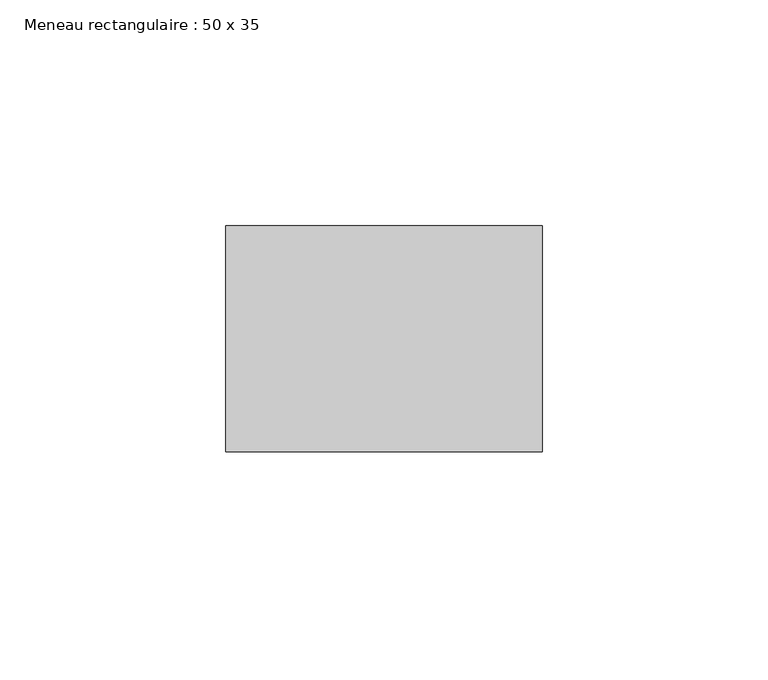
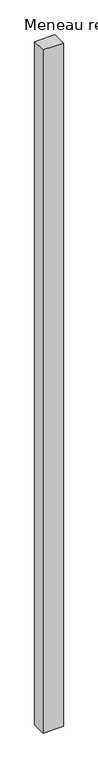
"""IFC4 building model written with IfcOpenShell, lengths in millimetres: member geometry, Meneau rectangulaire : 50 x 35."""

from ifc_helpers import new_model, si_unit, frame, origin, place, context, project, spatial, polyline, outline, extrude, source, transform, mapped, element, save


def meneau_rectangulaire_50_x_35_8a0ac1b3(model_context):
    return source(origin(), model_context, "Body", "SweptSolid", [
        extrude(outline(polyline([(0.0, 0.0), (0.0, -50.0), (-70.0, -50.0), (-70.0, 0.0), (0.0, 0.0)])), frame((0.0, 0.0, -2491.839151), z_axis=(0.0, 0.0, 1.0), x_axis=(1.0, 0.0, 0.0)), (0.0, 0.0, 1.0), 2491.839151),
    ])


if __name__ == "__main__":
    model = new_model("IFC4")
    model_context = context("Model", 3, world=origin())
    ifc_project = project(units=[si_unit("LENGTHUNIT", "METRE", prefix="MILLI")], contexts=[model_context])
    site = spatial("IfcSite", under=ifc_project)
    building = spatial("IfcBuilding", under=site)
    placement = place(None, origin())
    meneau_rectangulaire_50_x_35_shape = meneau_rectangulaire_50_x_35_8a0ac1b3(model_context)
    element("IfcMember", 1, ObjectType="Meneau rectangulaire : 50 x 35", at=placement, inside=building, context=model_context, shape_type="MappedRepresentation", body=[
        mapped(meneau_rectangulaire_50_x_35_shape, transform((0.0, 0.0, 0.0), x_axis=(1.0, 0.0, 0.0), y_axis=(0.0, 1.0, 0.0), z_axis=(0.0, 0.0, 1.0))),
    ])
    save(model, "model.ifc")
